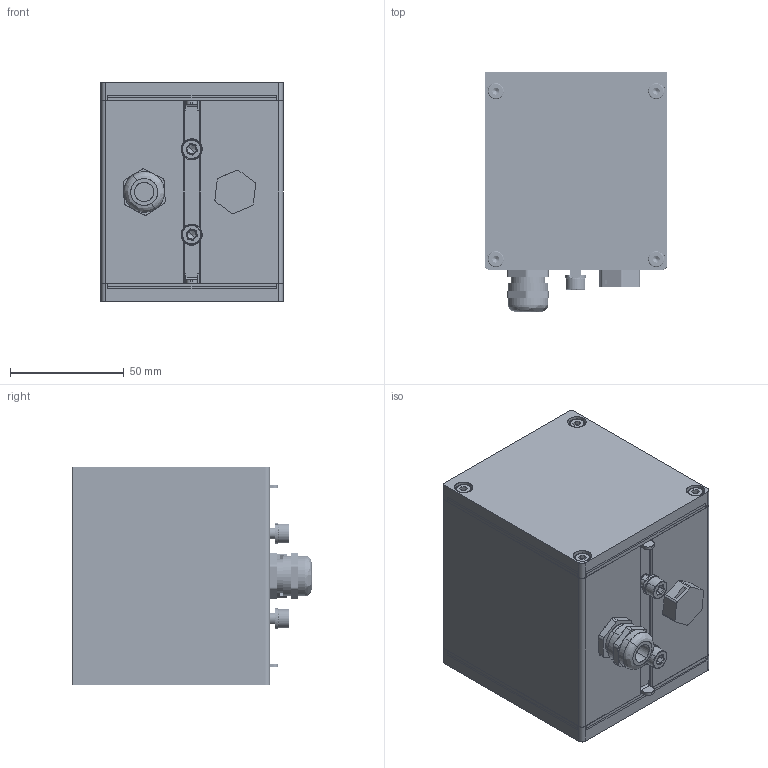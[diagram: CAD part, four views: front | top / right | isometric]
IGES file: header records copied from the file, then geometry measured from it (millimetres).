
Start section: SolidWorks IGES file using analytic representation for surfaces
Global section: file name: C:\Users\User2\Desktop\Lego IGS\Lego 2x2.IGS; native system: SolidWorks 2024; preprocessor: SolidWorks 2024; author: User2; date: 251022.124205; units: millimetre
Bounding box: 80 x 105.15 x 96 mm (x, y, z)
Surface area: 185746.7 mm2 (no closed solid volume)
Topology: 0 solids, 0 shells, 1971 faces, 22016 edges, 21954 vertices
Faces by surface type: bspline 1133, revolution 838
